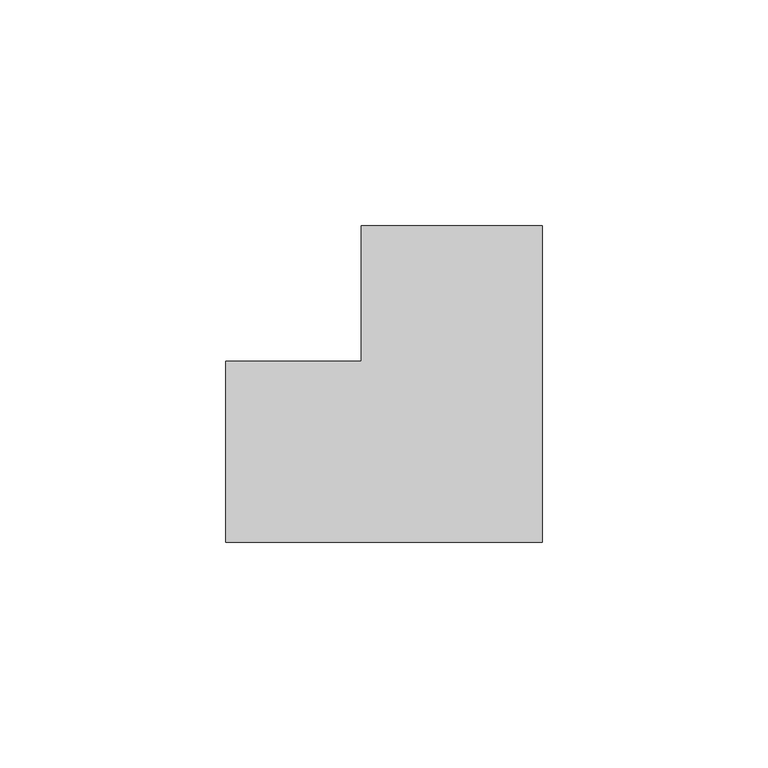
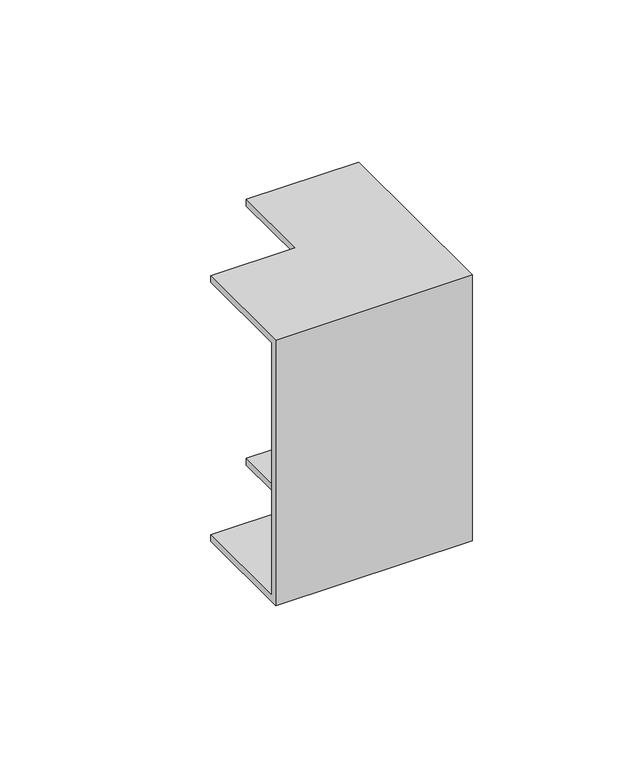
"""IFC4 building model written with IfcOpenShell, lengths in millimetres: cable carrier fitting geometry, КНС_УголВнутренний_ILC_DKC : Угол внутренний_DKC."""

from ifc_helpers import new_model, si_unit, origin, place, context, project, spatial, faceted_brep, source, transform, mapped, element, save


def cable_carrier_fitting_f86f3801(model_context):
    return source(origin(), model_context, "Body", "Brep", [
        faceted_brep([(-50.0, -20.0, 50.0), (-50.0, 20.0, 50.0), (-50.0, 20.0, 47.5), (-50.0, -17.5, 47.5), (-50.0, -17.5, -47.5), (-50.0, 20.0, -47.5), (-50.0, 20.0, -50.0), (-50.0, -20.0, -50.0), (20.0, 50.0, 50.0), (20.0, 50.0, -50.0), (-20.0, 50.0, -50.0), (-20.0, 50.0, -47.5), (17.5, 50.0, -47.5), (17.5, 50.0, 47.5), (-20.0, 50.0, 47.5), (-20.0, 50.0, 50.0), (20.0, -20.0, 50.0), (-20.0, 20.0, 50.0), (-20.0, 20.0, 47.5), (17.5, -17.5, 47.5), (17.5, -17.5, -47.5), (-20.0, 20.0, -47.5), (-20.0, 20.0, -50.0), (20.0, -20.0, -50.0)], [[[0, 1, 2, 3, 4, 5, 6, 7]], [[8, 9, 10, 11, 12, 13, 14, 15]], [[1, 0, 16, 8, 15, 17]], [[2, 1, 17, 18]], [[3, 2, 18, 14, 13, 19]], [[4, 3, 19, 20]], [[5, 4, 20, 12, 11, 21]], [[6, 5, 21, 22]], [[7, 6, 22, 10, 9, 23]], [[0, 7, 23, 16]], [[18, 17, 15, 14]], [[20, 19, 13, 12]], [[22, 21, 11, 10]], [[16, 23, 9, 8]]]),
    ])


if __name__ == "__main__":
    model = new_model("IFC4")
    model_context = context("Model", 3, world=origin())
    ifc_project = project(units=[si_unit("LENGTHUNIT", "METRE", prefix="MILLI")], contexts=[model_context])
    site = spatial("IfcSite", under=ifc_project)
    building = spatial("IfcBuilding", under=site)
    placement = place(None, origin())
    cable_carrier_fitting_shape = cable_carrier_fitting_f86f3801(model_context)
    element("IfcCableCarrierFitting", 1, ObjectType="КНС_УголВнутренний_ILC_DKC : Угол внутренний_DKC", at=placement, inside=building, context=model_context, shape_type="MappedRepresentation", body=[
        mapped(cable_carrier_fitting_shape, transform((0.0, 0.0, 0.0), x_axis=(1.0, 0.0, 0.0), y_axis=(0.0, 1.0, 0.0), z_axis=(0.0, 0.0, 1.0))),
    ])
    save(model, "model.ifc")
